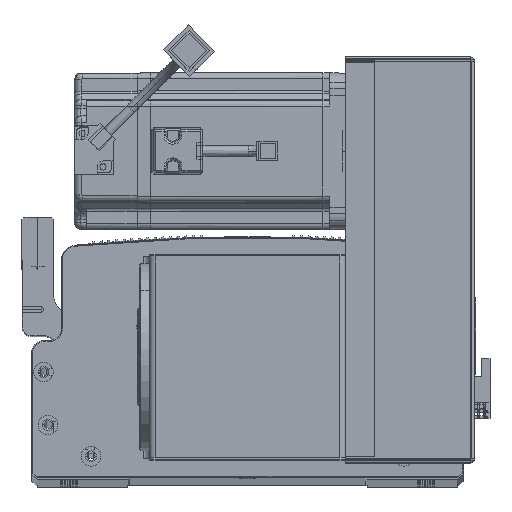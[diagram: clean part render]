
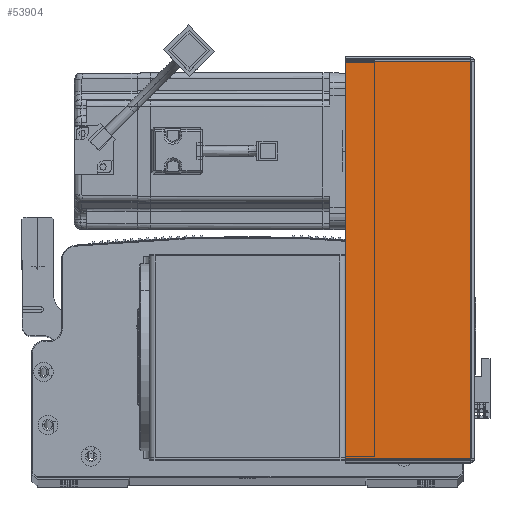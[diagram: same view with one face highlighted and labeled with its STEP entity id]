
A CAD part, top view. The second image highlights one B-rep face of the part: STEP entity #53904.
In plain terms, the highlighted planar face has unit normal (0, 0, 1) as drawn and (0, -1, 0) by its records, which use the part's own axes.
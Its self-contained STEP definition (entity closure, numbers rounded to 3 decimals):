
#1435 = ORIENTED_EDGE ( 'NONE', *, *, #41128, .T. ) ;
#2380 = DIRECTION ( 'NONE',  ( 0., 0., 1. ) ) ;
#3445 = LINE ( 'NONE', #20923, #72684 ) ;
#14634 = PLANE ( 'NONE',  #21920 ) ;
#15713 = VERTEX_POINT ( 'NONE', #87576 ) ;
#20923 = CARTESIAN_POINT ( 'NONE',  ( 0., -1.5, -203.293 ) ) ;
#21112 = EDGE_LOOP ( 'NONE', ( #76120, #41647, #1435, #60029 ) ) ;
#21872 = DIRECTION ( 'NONE',  ( -1., 0., 0. ) ) ;
#21920 = AXIS2_PLACEMENT_3D ( 'NONE', #42220, #78292, #21872 ) ;
#23353 = VERTEX_POINT ( 'NONE', #86936 ) ;
#27556 = DIRECTION ( 'NONE',  ( 1., 0., 0. ) ) ;
#30693 = VERTEX_POINT ( 'NONE', #60315 ) ;
#41128 = EDGE_CURVE ( 'NONE', #23353, #15713, #62548, .T. ) ;
#41647 = ORIENTED_EDGE ( 'NONE', *, *, #55260, .T. ) ;
#42220 = CARTESIAN_POINT ( 'NONE',  ( 0., -1.5, 0. ) ) ;
#47186 = DIRECTION ( 'NONE',  ( 0., 0., 1. ) ) ;
#53904 = ADVANCED_FACE ( 'NONE', ( #67384 ), #14634, .F. ) ;
#54924 = VECTOR ( 'NONE', #47186, 1000. ) ;
#55260 = EDGE_CURVE ( 'NONE', #30693, #23353, #3445, .T. ) ;
#56236 = DIRECTION ( 'NONE',  ( 1., 0., 0. ) ) ;
#60029 = ORIENTED_EDGE ( 'NONE', *, *, #71075, .F. ) ;
#60315 = CARTESIAN_POINT ( 'NONE',  ( 0.737, -1.5, -203.293 ) ) ;
#62548 = LINE ( 'NONE', #74817, #54924 ) ;
#67384 = FACE_OUTER_BOUND ( 'NONE', #21112, .T. ) ;
#68959 = VECTOR ( 'NONE', #56236, 1000. ) ;
#70171 = CARTESIAN_POINT ( 'NONE',  ( 0.737, -1.5, -0.707 ) ) ;
#71075 = EDGE_CURVE ( 'NONE', #78414, #15713, #92304, .T. ) ;
#71588 = LINE ( 'NONE', #89057, #88245 ) ;
#72684 = VECTOR ( 'NONE', #27556, 1000. ) ;
#74817 = CARTESIAN_POINT ( 'NONE',  ( 64.5, -1.5, 0. ) ) ;
#76120 = ORIENTED_EDGE ( 'NONE', *, *, #81693, .F. ) ;
#78292 = DIRECTION ( 'NONE',  ( 0., 1., 0. ) ) ;
#78414 = VERTEX_POINT ( 'NONE', #70171 ) ;
#81693 = EDGE_CURVE ( 'NONE', #30693, #78414, #71588, .T. ) ;
#83524 = CARTESIAN_POINT ( 'NONE',  ( 0., -1.5, -0.707 ) ) ;
#86936 = CARTESIAN_POINT ( 'NONE',  ( 64.5, -1.5, -203.293 ) ) ;
#87576 = CARTESIAN_POINT ( 'NONE',  ( 64.5, -1.5, -0.707 ) ) ;
#88245 = VECTOR ( 'NONE', #2380, 1000. ) ;
#89057 = CARTESIAN_POINT ( 'NONE',  ( 0.737, -1.5, 0. ) ) ;
#92304 = LINE ( 'NONE', #83524, #68959 ) ;
